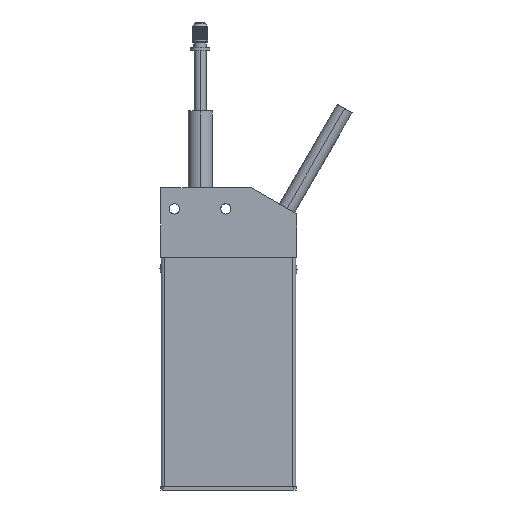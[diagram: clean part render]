
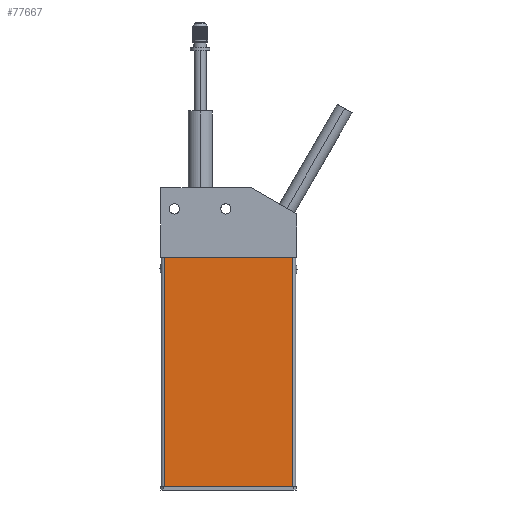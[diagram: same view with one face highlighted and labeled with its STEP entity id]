
A CAD part, left-side view. The second image highlights one B-rep face of the part: STEP entity #77667.
In plain terms, the highlighted planar face has unit normal (-1, 0, 0).
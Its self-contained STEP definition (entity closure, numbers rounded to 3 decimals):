
#1207 = CARTESIAN_POINT ( 'NONE',  ( 32.439, 55.531, 4.763 ) ) ;
#1991 = VERTEX_POINT ( 'NONE', #62266 ) ;
#3077 = CARTESIAN_POINT ( 'NONE',  ( 32.439, 13.131, 4.763 ) ) ;
#3357 = ORIENTED_EDGE ( 'NONE', *, *, #73836, .F. ) ;
#5632 = VECTOR ( 'NONE', #68671, 1000. ) ;
#28035 = DIRECTION ( 'NONE',  ( 0., 0., -1. ) ) ;
#28111 = LINE ( 'NONE', #1207, #5632 ) ;
#32740 = AXIS2_PLACEMENT_3D ( 'NONE', #85618, #35103, #94063 ) ;
#35103 = DIRECTION ( 'NONE',  ( 1., 0., 0. ) ) ;
#36528 = VECTOR ( 'NONE', #41478, 1000. ) ;
#39775 = ORIENTED_EDGE ( 'NONE', *, *, #76259, .T. ) ;
#40858 = CARTESIAN_POINT ( 'NONE',  ( 32.439, 55.531, 4.763 ) ) ;
#41478 = DIRECTION ( 'NONE',  ( 0., -1., 0. ) ) ;
#45455 = LINE ( 'NONE', #3077, #98179 ) ;
#47174 = FACE_OUTER_BOUND ( 'NONE', #63484, .T. ) ;
#52094 = CARTESIAN_POINT ( 'NONE',  ( 32.439, 13.131, -71.237 ) ) ;
#56653 = EDGE_CURVE ( 'NONE', #80305, #74978, #81377, .T. ) ;
#62266 = CARTESIAN_POINT ( 'NONE',  ( 32.439, 13.131, 4.763 ) ) ;
#63484 = EDGE_LOOP ( 'NONE', ( #93531, #63981, #3357, #39775 ) ) ;
#63981 = ORIENTED_EDGE ( 'NONE', *, *, #70478, .F. ) ;
#68671 = DIRECTION ( 'NONE',  ( 0., 0., -1. ) ) ;
#70478 = EDGE_CURVE ( 'NONE', #1991, #74978, #84174, .T. ) ;
#73836 = EDGE_CURVE ( 'NONE', #81461, #1991, #45455, .T. ) ;
#74685 = CARTESIAN_POINT ( 'NONE',  ( 32.439, 13.131, -71.237 ) ) ;
#74978 = VERTEX_POINT ( 'NONE', #52094 ) ;
#76259 = EDGE_CURVE ( 'NONE', #81461, #80305, #28111, .T. ) ;
#77667 = ADVANCED_FACE ( 'NONE', ( #47174 ), #93721, .F. ) ;
#79503 = CARTESIAN_POINT ( 'NONE',  ( 32.439, 55.531, -71.237 ) ) ;
#80305 = VERTEX_POINT ( 'NONE', #79503 ) ;
#81377 = LINE ( 'NONE', #74685, #36528 ) ;
#81461 = VERTEX_POINT ( 'NONE', #40858 ) ;
#81548 = VECTOR ( 'NONE', #28035, 1000. ) ;
#84174 = LINE ( 'NONE', #86977, #81548 ) ;
#85618 = CARTESIAN_POINT ( 'NONE',  ( 32.439, 13.131, 4.763 ) ) ;
#86977 = CARTESIAN_POINT ( 'NONE',  ( 32.439, 13.131, 4.763 ) ) ;
#93531 = ORIENTED_EDGE ( 'NONE', *, *, #56653, .T. ) ;
#93721 = PLANE ( 'NONE',  #32740 ) ;
#94063 = DIRECTION ( 'NONE',  ( 0., 1., 0. ) ) ;
#98179 = VECTOR ( 'NONE', #104348, 1000. ) ;
#104348 = DIRECTION ( 'NONE',  ( 0., -1., 0. ) ) ;
